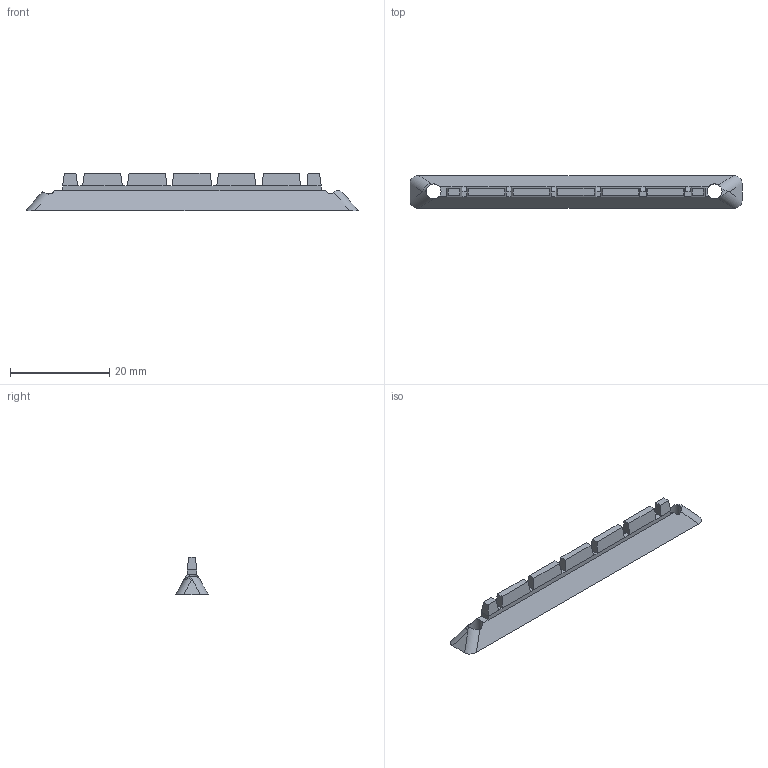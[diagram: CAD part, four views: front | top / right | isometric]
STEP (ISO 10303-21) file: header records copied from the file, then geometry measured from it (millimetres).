
FILE_DESCRIPTION(('STEP AP203'), '1');
FILE_NAME('ïîðîæåê 7ìì', '', ('UNSPECIFIED'), ('UNSPECIFIED'), 'ASCON STEP Converter 1.3', 'ASCON Math Kernel', '');
FILE_SCHEMA(('CONFIG_CONTROL_DESIGN'));
Length unit declared in the file: millimetre
Bounding box: 66.78 x 6.54 x 7.44 mm (x, y, z)
Volume: 1303.6 mm3; surface area: 1547.9 mm2
Topology: 1 solids, 1 shells, 93 faces, 226 edges, 133 vertices
Faces by surface type: plane 78, cylinder 14, bspline 1
Full cylindrical faces by diameter (mm): 3 x2
Entity records: 3582 total; most frequent: CARTESIAN_POINT 691, ORIENTED_EDGE 448, DIRECTION 407, EDGE_CURVE 224, LINE 183, VECTOR 183, VERTEX_POINT 133, AXIS2_PLACEMENT_3D 112
